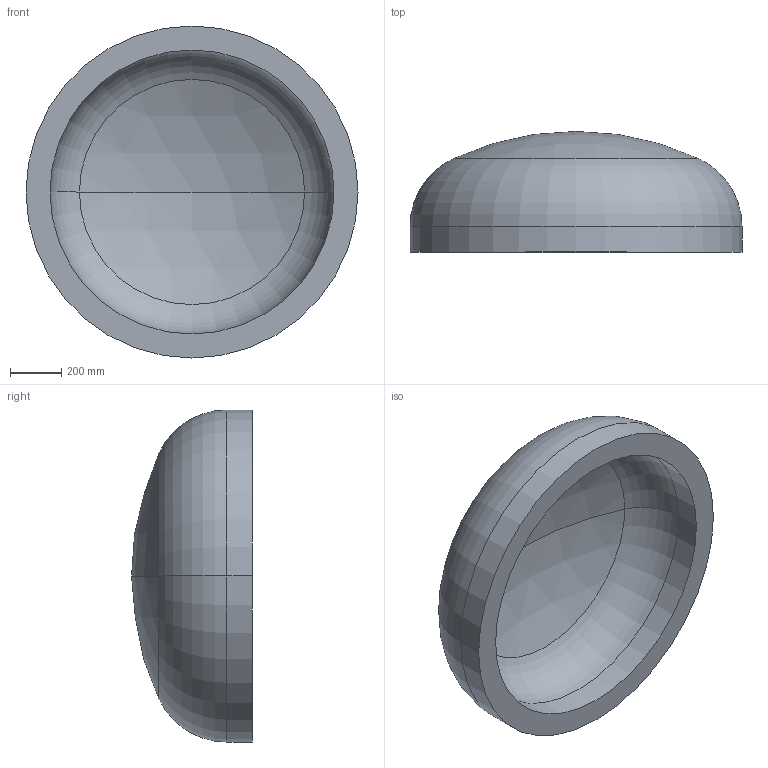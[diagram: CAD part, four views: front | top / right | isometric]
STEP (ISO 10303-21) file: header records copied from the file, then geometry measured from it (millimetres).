
FILE_DESCRIPTION (( 'STEP AP203' ), '1' );
FILE_NAME ('DIN 28013 Korbbogenform_-_Boden DIN 28013 - 1300 x 100 - I - s=94.step', '2016-07-01T10:01:04', ( '' ), ( '' ), 'SwSTEP 2.0', 'SolidWorks 2013', '' );
FILE_SCHEMA (( 'CONFIG_CONTROL_DESIGN' ));
Length unit declared in the file: millimetre
Products named in the file (1): DIN 28013 Korbbogenform_-_Boden DIN 28013 - 1300 x 100 - I - s=94
Bounding box: 1300 x 473.17 x 1300 mm (x, y, z)
Volume: 193307734.3 mm3; surface area: 4487579.2 mm2
Topology: 1 solids, 1 shells, 13 faces, 24 edges, 14 vertices
Faces by surface type: torus 4, cylinder 4, sphere 4, plane 1
Entity records: 407 total; most frequent: DIRECTION 72, CARTESIAN_POINT 52, ORIENTED_EDGE 48, AXIS2_PLACEMENT_3D 34, EDGE_CURVE 24, CIRCLE 20, VERTEX_POINT 14, EDGE_LOOP 14
